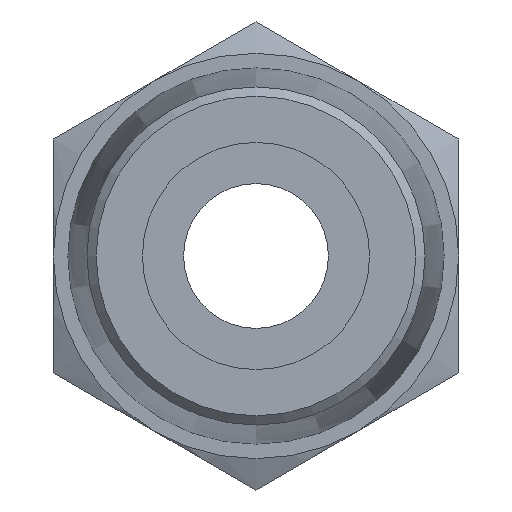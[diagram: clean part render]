
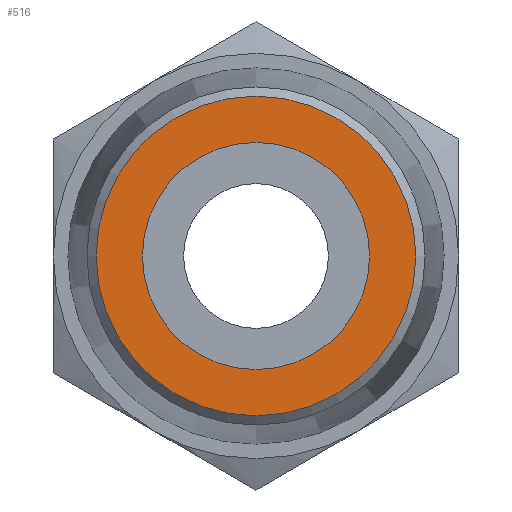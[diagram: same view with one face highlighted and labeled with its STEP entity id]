
A CAD part, front view. The second image highlights one B-rep face of the part: STEP entity #516.
In plain terms, the highlighted planar face has unit normal (0, -1, 0).
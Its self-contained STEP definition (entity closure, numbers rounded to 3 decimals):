
#61=FACE_BOUND('',#130,.T.);
#70=PLANE('',#588);
#89=FACE_OUTER_BOUND('',#129,.T.);
#129=EDGE_LOOP('',(#380));
#130=EDGE_LOOP('',(#381));
#202=CIRCLE('',#572,3.925);
#212=CIRCLE('',#587,5.521);
#236=VERTEX_POINT('',#808);
#246=VERTEX_POINT('',#836);
#282=EDGE_CURVE('',#236,#236,#202,.T.);
#296=EDGE_CURVE('',#246,#246,#212,.T.);
#380=ORIENTED_EDGE('',*,*,#296,.F.);
#381=ORIENTED_EDGE('',*,*,#282,.T.);
#516=ADVANCED_FACE('',(#89,#61),#70,.T.);
#572=AXIS2_PLACEMENT_3D('',#809,#647,#648);
#587=AXIS2_PLACEMENT_3D('',#838,#681,#682);
#588=AXIS2_PLACEMENT_3D('',#839,#683,#684);
#647=DIRECTION('center_axis',(0.,1.,0.));
#648=DIRECTION('ref_axis',(1.,0.,0.));
#681=DIRECTION('center_axis',(0.,1.,0.));
#682=DIRECTION('ref_axis',(0.,0.,1.));
#683=DIRECTION('center_axis',(0.,-1.,0.));
#684=DIRECTION('ref_axis',(0.,0.,-1.));
#808=CARTESIAN_POINT('',(-3.925,0.,0.));
#809=CARTESIAN_POINT('Origin',(0.,0.,0.));
#836=CARTESIAN_POINT('',(0.,0.,-5.521));
#838=CARTESIAN_POINT('Origin',(0.,0.,0.));
#839=CARTESIAN_POINT('Origin',(0.,0.,-5.821));
